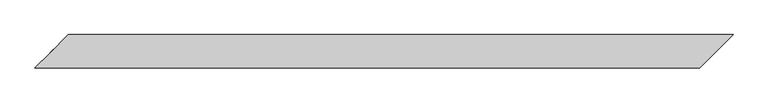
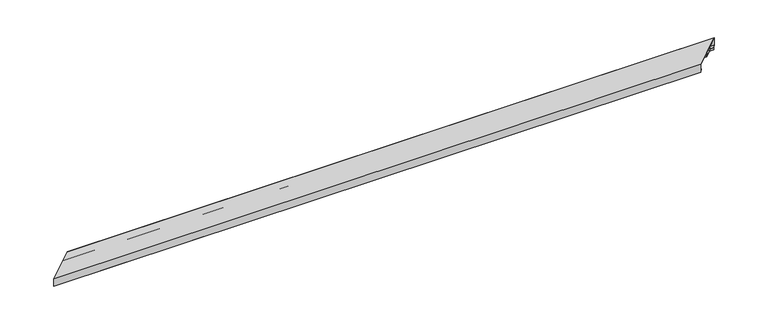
"""IFC4 building model written with IfcOpenShell, lengths in millimetres: proxy geometry, АК5_1 Парапет : АК5_1 Парапет."""

from ifc_helpers import new_model, si_unit, origin, place, context, project, spatial, faceted_brep, source, transform, mapped, element, save


def generic_models_9ea7565c(model_context):
    return source(origin(), model_context, "Body", "Brep", [
        faceted_brep([(-150.0, -150.0, 62.265966), (-150.0, -150.0, -20.4), (6349.7217181, -150.0, -20.4), (6349.7217181, -150.0, 62.265966), (177.1, 177.1, 33.6484242), (0.0, 0.0, 49.1426665), (6499.7217181, 0.0, 49.1426665), (6676.8217181, 177.1, 33.6484242), (177.1, 177.1, -51.4916897), (6676.8217181, 177.1, -51.4916897), (162.9578644, 162.9578644, -37.3495541), (6662.6795825, 162.9578644, -37.3495541), (162.9578644, 162.9578644, -77.3495541), (6662.6795825, 162.9578644, -77.3495541), (160.0, 160.0, -77.3495541), (6659.7217181, 160.0, -77.3495541), (160.0, 160.0, -57.3495541), (6659.7217181, 160.0, -57.3495541), (161.0, 161.0, -57.3495541), (6660.7217181, 161.0, -57.3495541), (161.0, 161.0, -76.3495541), (6660.7217181, 161.0, -76.3495541), (161.9578644, 161.9578644, -76.3495541), (6661.6795825, 161.9578644, -76.3495541), (161.9578644, 161.9578644, -34.9353406), (6661.6795825, 161.9578644, -34.9353406), (176.1, 176.1, -49.0774762), (6675.8217181, 176.1, -49.0774762), (176.1, 176.1, 32.732093), (6675.8217181, 176.1, 32.732093), (0.0, 0.0, 48.1388467), (6499.7217181, 0.0, 48.1388467), (6350.7217181, -149.0, 61.1746575), (-149.0, -149.0, 61.1746575), (-149.0, -149.0, -17.9857864), (6350.7217181, -149.0, -17.9857864), (-133.0294373, -133.0294373, -2.0152237), (6366.6922809, -133.0294373, -2.0152237), (-132.3223305, -132.3223305, -2.7223305), (6367.3993877, -132.3223305, -2.7223305)], [[[0, 1, 2, 3]], [[4, 5, 0, 3, 6, 7]], [[8, 4, 7, 9]], [[10, 8, 9, 11]], [[12, 10, 11, 13]], [[14, 12, 13, 15]], [[16, 14, 15, 17]], [[18, 16, 17, 19]], [[20, 18, 19, 21]], [[22, 20, 21, 23]], [[24, 22, 23, 25]], [[26, 24, 25, 27]], [[28, 26, 27, 29]], [[30, 28, 29, 31, 32, 33]], [[34, 33, 32, 35]], [[36, 34, 35, 37]], [[38, 36, 37, 39]], [[1, 38, 39, 2]], [[30, 5, 4, 8, 10, 12, 14, 16, 18, 20, 22, 24, 26, 28]], [[5, 30, 33, 34, 36, 38, 1, 0]], [[6, 31, 29, 27, 25, 23, 21, 19, 17, 15, 13, 11, 9, 7]], [[31, 6, 3, 2, 39, 37, 35, 32]]]),
        faceted_brep([(-148.0, -148.0, -12.5), (-146.0, -146.0, -12.5), (6353.7217181, -146.0, -12.5), (6351.7217181, -148.0, -12.5), (-148.0, -148.0, 60.083349), (6351.7217181, -148.0, 60.083349), (1.5433638, 1.5433638, 47.0), (0.0, 0.0, 47.1350268), (6499.7217181, 0.0, 47.1350268), (6501.2650819, 1.5433638, 47.0), (1.5433638, 1.5433638, 4.0), (6501.2650819, 1.5433638, 4.0), (67.5433638, 67.5433638, 4.0), (6567.2650819, 67.5433638, 4.0), (67.5433638, 67.5433638, 41.2257482), (6567.2650819, 67.5433638, 41.2257482), (114.5464367, 114.5464367, 37.1135122), (6614.2681548, 114.5464367, 37.1135122), (114.3721252, 114.3721252, 35.1211228), (6614.0938433, 114.3721252, 35.1211228), (69.5433638, 69.5433638, 39.0431312), (6569.2650819, 69.5433638, 39.0431312), (69.5433638, 69.5433638, 2.0), (6569.2650819, 69.5433638, 2.0), (0.0, 0.0, 2.0), (6499.7217181, 0.0, 2.0), (6499.2650819, -0.4566362, 2.0), (-0.4566362, -0.4566362, 2.0), (-0.4566362, -0.4566362, 45.1673377), (6499.2650819, -0.4566362, 45.1673377), (-146.0, -146.0, 57.900732), (6353.7217181, -146.0, 57.900732)], [[[0, 1, 2, 3]], [[4, 0, 3, 5]], [[6, 7, 4, 5, 8, 9]], [[10, 6, 9, 11]], [[12, 10, 11, 13]], [[14, 12, 13, 15]], [[16, 14, 15, 17]], [[18, 16, 17, 19]], [[20, 18, 19, 21]], [[22, 20, 21, 23]], [[24, 22, 23, 25, 26, 27]], [[28, 27, 26, 29]], [[30, 28, 29, 31]], [[1, 30, 31, 2]], [[24, 7, 6, 10, 12, 14, 16, 18, 20, 22]], [[7, 24, 27, 28, 30, 1, 0, 4]], [[8, 25, 23, 21, 19, 17, 15, 13, 11, 9]], [[25, 8, 5, 3, 2, 31, 29, 26]]]),
    ])


if __name__ == "__main__":
    model = new_model("IFC4")
    model_context = context("Model", 3, world=origin())
    ifc_project = project(units=[si_unit("LENGTHUNIT", "METRE", prefix="MILLI")], contexts=[model_context])
    site = spatial("IfcSite", under=ifc_project)
    building = spatial("IfcBuilding", under=site)
    placement = place(None, origin())
    generic_models_shape = generic_models_9ea7565c(model_context)
    element("IfcBuildingElementProxy", 1, Name="АК5_1 Парапет : АК5_1 Парапет", ObjectType="АК5_1 Парапет : АК5_1 Парапет", at=placement, inside=building, context=model_context, shape_type="MappedRepresentation", body=[
        mapped(generic_models_shape, transform((0.0, 0.0, 0.0), x_axis=(1.0, 0.0, 0.0), y_axis=(0.0, 1.0, 0.0), z_axis=(0.0, 0.0, 1.0))),
    ])
    save(model, "model.ifc")
